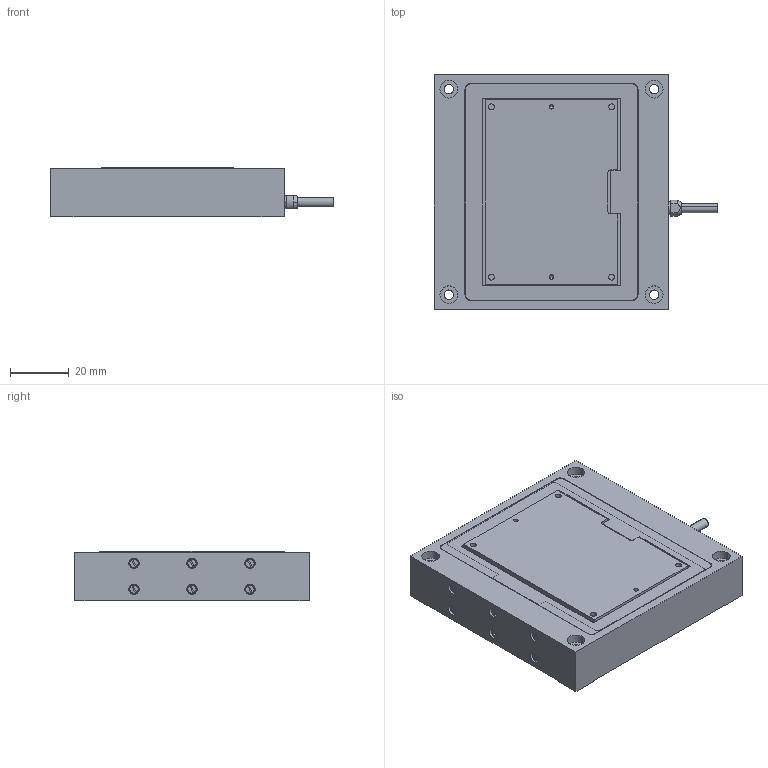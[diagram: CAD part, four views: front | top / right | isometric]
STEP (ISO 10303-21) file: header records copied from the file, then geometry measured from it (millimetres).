
FILE_DESCRIPTION (( 'STEP AP203' ), '1' );
FILE_NAME ('P-628.1XX.STEP', '2014-02-12T13:07:57', ( 'test' ), ( '' ), 'SwSTEP 2.0', 'SolidWorks 2012', '' );
FILE_SCHEMA (( 'CONFIG_CONTROL_DESIGN' ));
Length unit declared in the file: millimetre
Products named in the file (1): P-628.1XX
Bounding box: 96.7 x 80 x 17 mm (x, y, z)
Volume: 99366.4 mm3; surface area: 37396.6 mm2
Topology: 19 solids, 19 shells, 558 faces, 1336 edges, 817 vertices
Faces by surface type: plane 199, cylinder 189, cone 126, torus 44
Entity records: 16900 total; most frequent: CARTESIAN_POINT 3710, DIRECTION 2921, ORIENTED_EDGE 2592, EDGE_CURVE 1296, AXIS2_PLACEMENT_3D 1156, VERTEX_POINT 817, EDGE_LOOP 635, VECTOR 609
